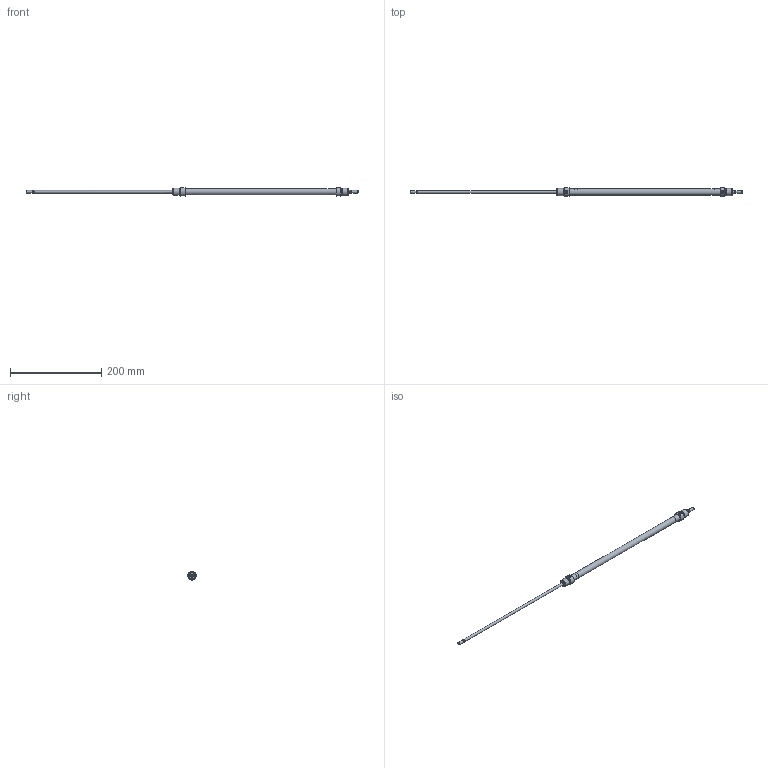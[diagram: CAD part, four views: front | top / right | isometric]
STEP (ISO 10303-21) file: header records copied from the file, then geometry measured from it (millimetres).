
FILE_DESCRIPTION( ( 'STEP AP203' ), '1' );
FILE_NAME( '//expscmdclustefs.cadenas.external/client_exchange/iodir/jobs/output/wkb68407342_no0/STEP/M101-012-0300-M__0__2_03.stp', ' ', ( ' ' ), ( ' ' ), 'PSStep 15.0.47', 'PARTsolutions', ' ' );
FILE_SCHEMA( ( 'CONFIG_CONTROL_DESIGN' ) );
Length unit declared in the file: millimetre
Products named in the file (3): M101-012-0300-M [0]; HI_M101-012-0300-M-[0]-z; HI_M101-012-0300-M-[0]-k
Assembly tree (2 placements, depth 2):
  M101-012-0300-M [0]
    HI_M101-012-0300-M-[0]-z
    HI_M101-012-0300-M-[0]-k
Bounding box: 726 x 18.73 x 17.86 mm (x, y, z)
Volume: 41849.2 mm3; surface area: 44734.2 mm2
Topology: 2 solids, 2 shells, 65 faces, 129 edges, 80 vertices
Faces by surface type: plane 26, cylinder 23, cone 14, torus 2
Full cylindrical faces by diameter (mm): 4.134 x2, 4.773 x2, 6 x6, 12 x2, 13.3 x1, 14.16 x4, 16 x4
Entity records: 1670 total; most frequent: CARTESIAN_POINT 324, DIRECTION 280, ORIENTED_EDGE 184, AXIS2_PLACEMENT_3D 128, EDGE_LOOP 116, EDGE_CURVE 92, FACE_OUTER_BOUND 88, VERTEX_POINT 76
